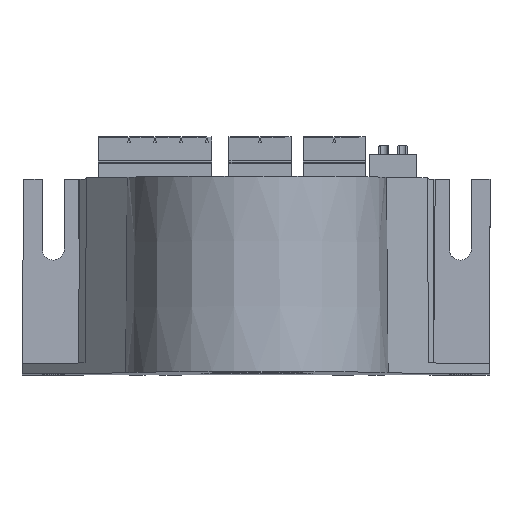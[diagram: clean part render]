
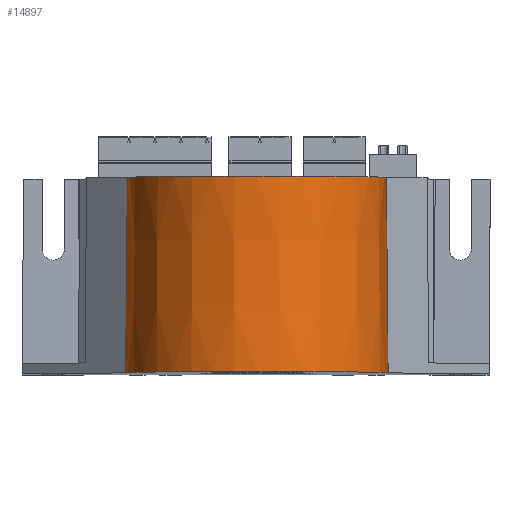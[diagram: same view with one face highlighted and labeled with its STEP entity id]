
A CAD part, top view. The second image highlights one B-rep face of the part: STEP entity #14897.
In plain terms, the highlighted conical face has half-angle 0.5 degrees and reference radius 17.5 mm.
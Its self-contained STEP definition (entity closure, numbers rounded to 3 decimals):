
#155=B_SPLINE_CURVE_WITH_KNOTS('',3,(#23019,#23020,#23021,#23022),
 .UNSPECIFIED.,.F.,.F.,(4,4),(0.,0.026),.UNSPECIFIED.);
#156=B_SPLINE_CURVE_WITH_KNOTS('',3,(#23033,#23034,#23035,#23036),
 .UNSPECIFIED.,.F.,.F.,(4,4),(0.,0.026),.UNSPECIFIED.);
#167=CONICAL_SURFACE('',#15800,17.5,0.009);
#461=CIRCLE('',#15801,17.73);
#462=CIRCLE('',#15802,17.5);
#2766=ORIENTED_EDGE('',*,*,#5466,.F.);
#2767=ORIENTED_EDGE('',*,*,#5462,.F.);
#2768=ORIENTED_EDGE('',*,*,#5467,.T.);
#2769=ORIENTED_EDGE('',*,*,#5468,.T.);
#5462=EDGE_CURVE('',#7104,#7105,#155,.T.);
#5466=EDGE_CURVE('',#7105,#7106,#461,.T.);
#5467=EDGE_CURVE('',#7104,#7107,#462,.T.);
#5468=EDGE_CURVE('',#7107,#7106,#156,.T.);
#7104=VERTEX_POINT('',#23023);
#7105=VERTEX_POINT('',#23024);
#7106=VERTEX_POINT('',#23030);
#7107=VERTEX_POINT('',#23032);
#11341=EDGE_LOOP('',(#2766,#2767,#2768,#2769));
#12119=FACE_BOUND('',#11341,.T.);
#14897=ADVANCED_FACE('',(#12119),#167,.T.);
#15800=AXIS2_PLACEMENT_3D('',#23028,#18341,#18342);
#15801=AXIS2_PLACEMENT_3D('',#23029,#18343,#18344);
#15802=AXIS2_PLACEMENT_3D('',#23031,#18345,#18346);
#18341=DIRECTION('',(0.,-1.,0.009));
#18342=DIRECTION('',(-1.,0.,0.));
#18343=DIRECTION('',(0.,-1.,0.009));
#18344=DIRECTION('',(1.,0.,0.));
#18345=DIRECTION('',(0.,-1.,0.009));
#18346=DIRECTION('',(-0.707,-0.006,-0.707));
#23019=CARTESIAN_POINT('',(-5.1,25.309,20.227));
#23020=CARTESIAN_POINT('',(-5.023,16.51,20.335));
#23021=CARTESIAN_POINT('',(-4.946,7.71,20.444));
#23022=CARTESIAN_POINT('',(-4.87,-1.089,20.552));
#23023=CARTESIAN_POINT('',(-5.1,25.309,20.227));
#23024=CARTESIAN_POINT('',(-4.87,-1.089,20.552));
#23028=CARTESIAN_POINT('',(-22.6,25.309,20.227));
#23029=CARTESIAN_POINT('',(-22.6,-1.09,20.456));
#23030=CARTESIAN_POINT('',(-40.33,-1.089,20.552));
#23031=CARTESIAN_POINT('',(-22.6,25.309,20.227));
#23032=CARTESIAN_POINT('',(-40.1,25.309,20.227));
#23033=CARTESIAN_POINT('',(-40.1,25.309,20.227));
#23034=CARTESIAN_POINT('',(-40.177,16.51,20.335));
#23035=CARTESIAN_POINT('',(-40.253,7.71,20.444));
#23036=CARTESIAN_POINT('',(-40.33,-1.089,20.552));
